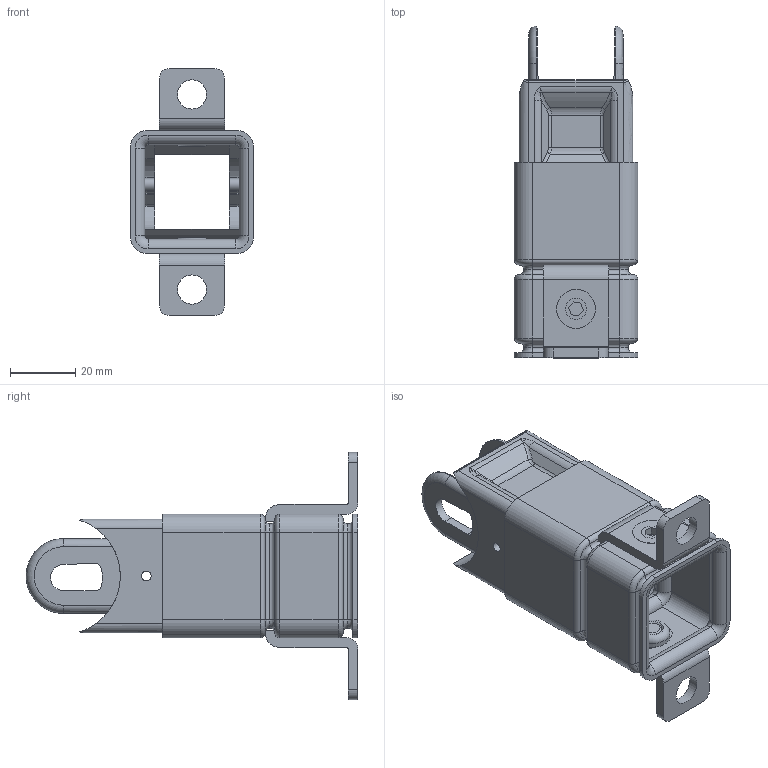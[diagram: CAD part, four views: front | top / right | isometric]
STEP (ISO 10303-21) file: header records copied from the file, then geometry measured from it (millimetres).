
FILE_DESCRIPTION((''),'2;1');
FILE_NAME('E:\Uebbing\KATALOG\3D\PFR\PFR 121\PFR 121 Anschluss A.stp','2010-08-16T12:25:00',('UebbingXP'),(''),'Autodesk Inventor 10','Autodesk Inventor 10','');
FILE_SCHEMA(('AUTOMOTIVE_DESIGN { 1 0 10303 214 1 1 1 1 }'));
Length unit declared in the file: millimetre
Products named in the file (6): PFR 121 Anschluss A; PFR121 Normalanschluss; Anschlusswinkel; Imbusschraube M6x5 Senkkopf; Rändelmutter M6 flach; PFR121-75 
Assembly tree (8 placements, depth 2):
  PFR 121 Anschluss A
    PFR121 Normalanschluss
    Anschlusswinkel  x2
    Imbusschraube M6x5 Senkkopf  x2
    Rändelmutter M6 flach  x2
    PFR121-75 
Bounding box: 38 x 102.05 x 76 mm (x, y, z)
Volume: 37264.4 mm3; surface area: 36274.2 mm2
Topology: 8 solids, 8 shells, 445 faces, 1050 edges, 620 vertices
Faces by surface type: cylinder 147, plane 131, bspline 124, torus 35, cone 8
Full cylindrical faces by diameter (mm): 3 x1, 6 x4, 6.5 x2, 9 x4, 9.2 x2, 11 x2, 12 x2
Entity records: 15555 total; most frequent: CARTESIAN_POINT 6494, DIRECTION 1870, ORIENTED_EDGE 1840, EDGE_CURVE 920, AXIS2_PLACEMENT_3D 717, VERTEX_POINT 550, EDGE_LOOP 448, VECTOR 436
